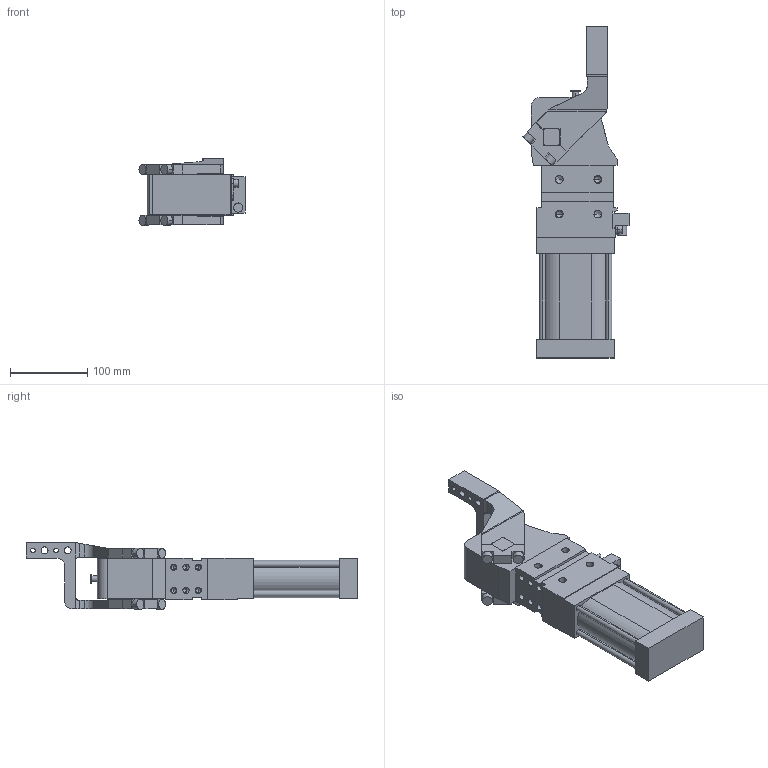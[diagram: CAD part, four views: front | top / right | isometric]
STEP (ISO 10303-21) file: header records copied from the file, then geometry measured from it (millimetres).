
FILE_DESCRIPTION (( 'STEP AP214' ), '1' );
FILE_NAME ('cpl63h3ssi1g_75.STEP', '2023-01-26T10:46:13', ( '' ), ( '' ), 'SwSTEP 2.0', 'SolidWorks 2022', '' );
FILE_SCHEMA (( 'AUTOMOTIVE_DESIGN' ));
Length unit declared in the file: millimetre
Products named in the file (4): leva_sx_offset_45_cpl63; cpl63h3ssi1g_75; blocchetto_VEP_0; meccanica_cpl_63
Assembly tree (3 placements, depth 2):
  cpl63h3ssi1g_75
    meccanica_cpl_63
    blocchetto_VEP_0
    leva_sx_offset_45_cpl63
Bounding box: 137.59 x 430.5 x 86.5 mm (x, y, z)
Volume: 1808979.7 mm3; surface area: 193736.5 mm2
Topology: 3 solids, 3 shells, 398 faces, 1043 edges, 643 vertices
Faces by surface type: plane 200, cylinder 148, cone 50
Entity records: 13503 total; most frequent: CARTESIAN_POINT 2144, DIRECTION 2114, ORIENTED_EDGE 1994, EDGE_CURVE 997, AXIS2_PLACEMENT_3D 727, VECTOR 660, LINE 660, VERTEX_POINT 643
